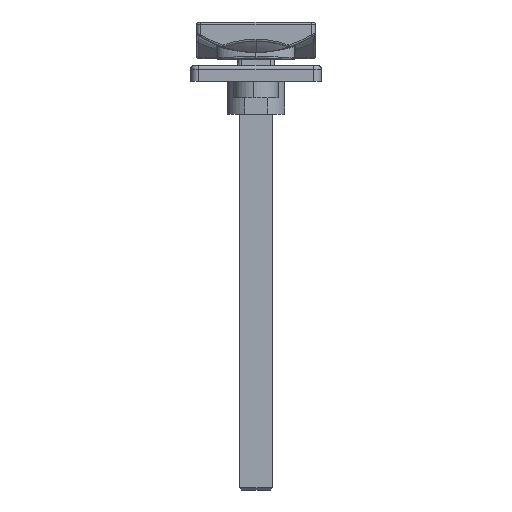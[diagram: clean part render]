
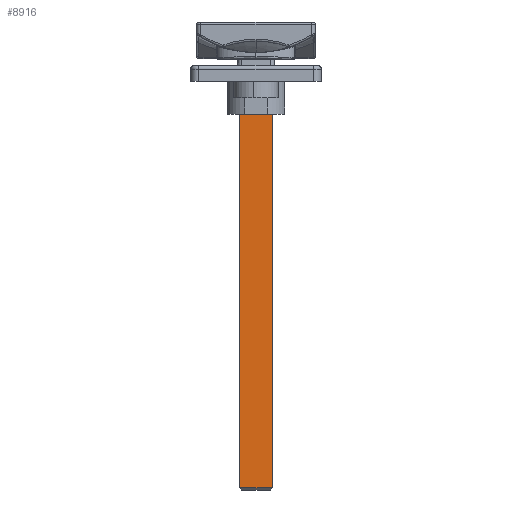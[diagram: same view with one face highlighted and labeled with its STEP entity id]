
A CAD part, front view. The second image highlights one B-rep face of the part: STEP entity #8916.
In plain terms, the highlighted planar face has unit normal (0, -1, 0) as drawn and (1, 0, 0) by its records, which use the part's own axes.
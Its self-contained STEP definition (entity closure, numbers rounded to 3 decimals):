
#24 = DIRECTION ( 'NONE',  ( 0., -1., 0. ) ) ;
#332 = EDGE_CURVE ( 'NONE', #5110, #3725, #4018, .T. ) ;
#909 = VERTEX_POINT ( 'NONE', #8488 ) ;
#986 = FACE_BOUND ( 'NONE', #4511, .T. ) ;
#1168 = CARTESIAN_POINT ( 'NONE',  ( 4., 0., 6.25 ) ) ;
#1247 = VECTOR ( 'NONE', #2227, 1000. ) ;
#1338 = ORIENTED_EDGE ( 'NONE', *, *, #332, .T. ) ;
#1354 = DIRECTION ( 'NONE',  ( 0., 0., -1. ) ) ;
#2184 = CARTESIAN_POINT ( 'NONE',  ( 4., 0., 4. ) ) ;
#2226 = AXIS2_PLACEMENT_3D ( 'NONE', #2184, #2238, #1354 ) ;
#2227 = DIRECTION ( 'NONE',  ( 0., 0., -1. ) ) ;
#2238 = DIRECTION ( 'NONE',  ( 1., 0., 0. ) ) ;
#2413 = CARTESIAN_POINT ( 'NONE',  ( 4., 4., 0.5 ) ) ;
#2506 = PLANE ( 'NONE',  #8327 ) ;
#2799 = VERTEX_POINT ( 'NONE', #4596 ) ;
#3357 = LINE ( 'NONE', #2413, #4474 ) ;
#3408 = ORIENTED_EDGE ( 'NONE', *, *, #4759, .F. ) ;
#3512 = VERTEX_POINT ( 'NONE', #4075 ) ;
#3725 = VERTEX_POINT ( 'NONE', #5378 ) ;
#3806 = LINE ( 'NONE', #7793, #1247 ) ;
#3963 = CARTESIAN_POINT ( 'NONE',  ( 4., 4., 99.5 ) ) ;
#4018 = LINE ( 'NONE', #7203, #6051 ) ;
#4075 = CARTESIAN_POINT ( 'NONE',  ( 4., 4., 0.5 ) ) ;
#4082 = VERTEX_POINT ( 'NONE', #1168 ) ;
#4474 = VECTOR ( 'NONE', #9699, 1000. ) ;
#4511 = EDGE_LOOP ( 'NONE', ( #3408, #5926 ) ) ;
#4536 = EDGE_CURVE ( 'NONE', #4082, #909, #4593, .T. ) ;
#4593 = CIRCLE ( 'NONE', #2226, 2.25 ) ;
#4596 = CARTESIAN_POINT ( 'NONE',  ( 4., -4., 0.5 ) ) ;
#4759 = EDGE_CURVE ( 'NONE', #909, #4082, #7601, .T. ) ;
#4864 = LINE ( 'NONE', #6481, #5137 ) ;
#5047 = EDGE_CURVE ( 'NONE', #5110, #3512, #3806, .T. ) ;
#5062 = ORIENTED_EDGE ( 'NONE', *, *, #8375, .T. ) ;
#5110 = VERTEX_POINT ( 'NONE', #3963 ) ;
#5137 = VECTOR ( 'NONE', #9679, 1000. ) ;
#5221 = EDGE_LOOP ( 'NONE', ( #7694, #5062, #10359, #1338 ) ) ;
#5378 = CARTESIAN_POINT ( 'NONE',  ( 4., -4., 99.5 ) ) ;
#5559 = FACE_OUTER_BOUND ( 'NONE', #5221, .T. ) ;
#5710 = DIRECTION ( 'NONE',  ( 0., -1., 0. ) ) ;
#5926 = ORIENTED_EDGE ( 'NONE', *, *, #4536, .F. ) ;
#6051 = VECTOR ( 'NONE', #24, 1000. ) ;
#6331 = CARTESIAN_POINT ( 'NONE',  ( 4., 0., 4. ) ) ;
#6481 = CARTESIAN_POINT ( 'NONE',  ( 4., -4., 100. ) ) ;
#7167 = DIRECTION ( 'NONE',  ( 1., 0., 0. ) ) ;
#7203 = CARTESIAN_POINT ( 'NONE',  ( 4., -4., 99.5 ) ) ;
#7376 = DIRECTION ( 'NONE',  ( -1., 0., 0. ) ) ;
#7601 = CIRCLE ( 'NONE', #8436, 2.25 ) ;
#7694 = ORIENTED_EDGE ( 'NONE', *, *, #7784, .T. ) ;
#7784 = EDGE_CURVE ( 'NONE', #3725, #2799, #4864, .T. ) ;
#7793 = CARTESIAN_POINT ( 'NONE',  ( 4., 4., 100. ) ) ;
#8327 = AXIS2_PLACEMENT_3D ( 'NONE', #8960, #7376, #5710 ) ;
#8375 = EDGE_CURVE ( 'NONE', #2799, #3512, #3357, .T. ) ;
#8436 = AXIS2_PLACEMENT_3D ( 'NONE', #6331, #7167, #10365 ) ;
#8488 = CARTESIAN_POINT ( 'NONE',  ( 4., 0., 1.75 ) ) ;
#8916 = ADVANCED_FACE ( 'NONE', ( #986, #5559 ), #2506, .F. ) ;
#8960 = CARTESIAN_POINT ( 'NONE',  ( 4., 4., 100. ) ) ;
#9679 = DIRECTION ( 'NONE',  ( 0., 0., -1. ) ) ;
#9699 = DIRECTION ( 'NONE',  ( 0., 1., 0. ) ) ;
#10359 = ORIENTED_EDGE ( 'NONE', *, *, #5047, .F. ) ;
#10365 = DIRECTION ( 'NONE',  ( 0., 0., -1. ) ) ;
